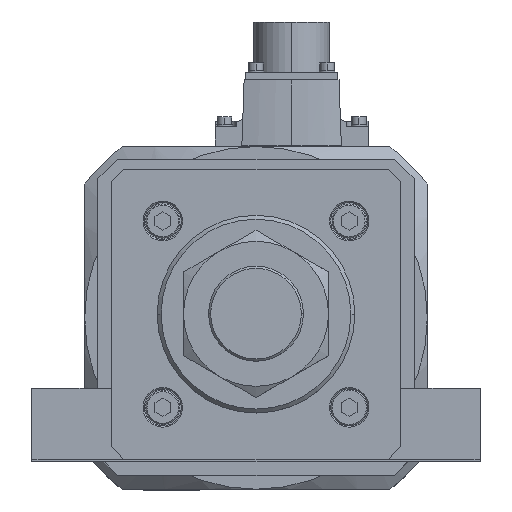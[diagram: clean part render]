
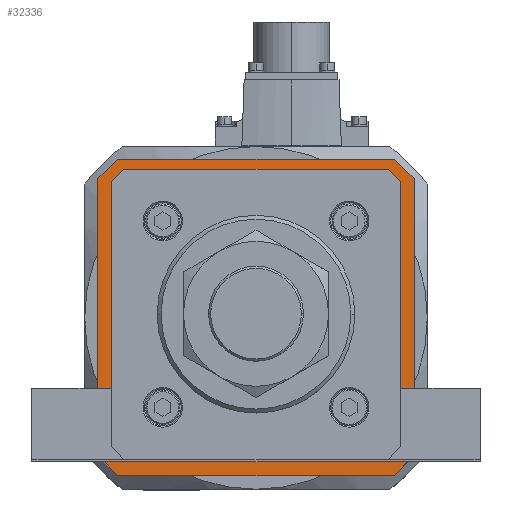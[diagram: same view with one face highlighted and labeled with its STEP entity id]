
A CAD part, top view. The second image highlights one B-rep face of the part: STEP entity #32336.
In plain terms, the highlighted planar face has unit normal (0, 0, 1).
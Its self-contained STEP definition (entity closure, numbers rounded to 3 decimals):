
#54 = CARTESIAN_POINT ( 'NONE',  ( 53.5, -49.593, -119. ) ) ;
#778 = VERTEX_POINT ( 'NONE', #18871 ) ;
#850 = ORIENTED_EDGE ( 'NONE', *, *, #4722, .T. ) ;
#1063 = EDGE_CURVE ( 'NONE', #21737, #21172, #24887, .T. ) ;
#1149 = CARTESIAN_POINT ( 'NONE',  ( 60., 52.5, -119. ) ) ;
#1278 = DIRECTION ( 'NONE',  ( 0., -1., 0. ) ) ;
#1324 = CARTESIAN_POINT ( 'NONE',  ( 0., 0., -119. ) ) ;
#1501 = ORIENTED_EDGE ( 'NONE', *, *, #22711, .T. ) ;
#2010 = EDGE_CURVE ( 'NONE', #30702, #20458, #7044, .T. ) ;
#2011 = LINE ( 'NONE', #13916, #14764 ) ;
#2049 = EDGE_CURVE ( 'NONE', #6656, #7820, #2011, .T. ) ;
#2811 = EDGE_CURVE ( 'NONE', #19448, #21846, #28827, .T. ) ;
#3164 = CARTESIAN_POINT ( 'NONE',  ( 52.5, 60., -119. ) ) ;
#3295 = VERTEX_POINT ( 'NONE', #10943 ) ;
#3515 = FACE_OUTER_BOUND ( 'NONE', #19073, .T. ) ;
#3851 = EDGE_CURVE ( 'NONE', #20471, #6656, #7826, .T. ) ;
#4645 = EDGE_LOOP ( 'NONE', ( #13287, #1501, #850, #19172, #35127, #7409, #12230, #7580 ) ) ;
#4722 = EDGE_CURVE ( 'NONE', #14181, #21737, #13696, .T. ) ;
#4867 = DIRECTION ( 'NONE',  ( 0., 0., 1. ) ) ;
#5042 = LINE ( 'NONE', #20542, #15513 ) ;
#5574 = LINE ( 'NONE', #16582, #11105 ) ;
#5791 = CARTESIAN_POINT ( 'NONE',  ( -53.5, -49.593, -119. ) ) ;
#6359 = EDGE_CURVE ( 'NONE', #7820, #11399, #36318, .T. ) ;
#6594 = CARTESIAN_POINT ( 'NONE',  ( -52.5, 60., -119. ) ) ;
#6656 = VERTEX_POINT ( 'NONE', #29508 ) ;
#6674 = VECTOR ( 'NONE', #36194, 1000. ) ;
#7007 = VECTOR ( 'NONE', #1278, 1000. ) ;
#7044 = LINE ( 'NONE', #24977, #27502 ) ;
#7186 = CARTESIAN_POINT ( 'NONE',  ( 60., 52.5, -119. ) ) ;
#7409 = ORIENTED_EDGE ( 'NONE', *, *, #2010, .T. ) ;
#7459 = CARTESIAN_POINT ( 'NONE',  ( 52.5, -60., -119. ) ) ;
#7580 = ORIENTED_EDGE ( 'NONE', *, *, #32384, .T. ) ;
#7820 = VERTEX_POINT ( 'NONE', #20636 ) ;
#7826 = LINE ( 'NONE', #7459, #23742 ) ;
#7831 = CARTESIAN_POINT ( 'NONE',  ( -49.446, 53.646, -119. ) ) ;
#8990 = EDGE_CURVE ( 'NONE', #21846, #20471, #34178, .T. ) ;
#9011 = CARTESIAN_POINT ( 'NONE',  ( 49.446, -53.646, -119. ) ) ;
#10484 = ORIENTED_EDGE ( 'NONE', *, *, #8990, .F. ) ;
#10580 = CARTESIAN_POINT ( 'NONE',  ( 60., 52.5, -119. ) ) ;
#10943 = CARTESIAN_POINT ( 'NONE',  ( 49.593, 53.5, -119. ) ) ;
#11105 = VECTOR ( 'NONE', #28182, 1000. ) ;
#11259 = CARTESIAN_POINT ( 'NONE',  ( 53.646, 49.446, -119. ) ) ;
#11389 = ORIENTED_EDGE ( 'NONE', *, *, #2049, .F. ) ;
#11399 = VERTEX_POINT ( 'NONE', #30617 ) ;
#11785 = CARTESIAN_POINT ( 'NONE',  ( 53.5, -49.8, -119. ) ) ;
#12230 = ORIENTED_EDGE ( 'NONE', *, *, #17695, .T. ) ;
#12240 = ORIENTED_EDGE ( 'NONE', *, *, #6359, .F. ) ;
#12461 = DIRECTION ( 'NONE',  ( 0.707, 0.707, 0. ) ) ;
#12627 = CARTESIAN_POINT ( 'NONE',  ( -49.593, 53.5, -119. ) ) ;
#13287 = ORIENTED_EDGE ( 'NONE', *, *, #27157, .T. ) ;
#13696 = LINE ( 'NONE', #11785, #30061 ) ;
#13787 = CARTESIAN_POINT ( 'NONE',  ( -60., 52.5, -119. ) ) ;
#13915 = EDGE_CURVE ( 'NONE', #31546, #32654, #28208, .T. ) ;
#13916 = CARTESIAN_POINT ( 'NONE',  ( -52.5, -60., -119. ) ) ;
#13970 = ORIENTED_EDGE ( 'NONE', *, *, #3851, .F. ) ;
#14005 = VECTOR ( 'NONE', #22577, 1000. ) ;
#14181 = VERTEX_POINT ( 'NONE', #34300 ) ;
#14367 = CARTESIAN_POINT ( 'NONE',  ( -52.5, 60., -119. ) ) ;
#14575 = CARTESIAN_POINT ( 'NONE',  ( 52.5, -60., -119. ) ) ;
#14764 = VECTOR ( 'NONE', #16798, 1000. ) ;
#14798 = DIRECTION ( 'NONE',  ( 0., -1., 0. ) ) ;
#14950 = LINE ( 'NONE', #6594, #15858 ) ;
#15404 = DIRECTION ( 'NONE',  ( -0.707, 0.707, 0. ) ) ;
#15513 = VECTOR ( 'NONE', #34671, 1000. ) ;
#15829 = PLANE ( 'NONE',  #21285 ) ;
#15858 = VECTOR ( 'NONE', #12461, 1000. ) ;
#16187 = CARTESIAN_POINT ( 'NONE',  ( -49.593, -53.5, -119. ) ) ;
#16582 = CARTESIAN_POINT ( 'NONE',  ( -49.8, -53.5, -119. ) ) ;
#16798 = DIRECTION ( 'NONE',  ( -0.707, 0.707, 0. ) ) ;
#17695 = EDGE_CURVE ( 'NONE', #20458, #778, #23838, .T. ) ;
#18141 = DIRECTION ( 'NONE',  ( 0., 1., 0. ) ) ;
#18381 = EDGE_CURVE ( 'NONE', #21172, #30702, #5574, .T. ) ;
#18484 = CARTESIAN_POINT ( 'NONE',  ( 60., -52.5, -119. ) ) ;
#18871 = CARTESIAN_POINT ( 'NONE',  ( -53.5, 49.593, -119. ) ) ;
#19073 = EDGE_LOOP ( 'NONE', ( #33931, #33602, #12240, #11389, #13970, #10484, #19946, #25214 ) ) ;
#19128 = DIRECTION ( 'NONE',  ( -1., 0., 0. ) ) ;
#19172 = ORIENTED_EDGE ( 'NONE', *, *, #1063, .T. ) ;
#19448 = VERTEX_POINT ( 'NONE', #10580 ) ;
#19875 = DIRECTION ( 'NONE',  ( 0.707, 0.707, 0. ) ) ;
#19946 = ORIENTED_EDGE ( 'NONE', *, *, #2811, .F. ) ;
#20458 = VERTEX_POINT ( 'NONE', #5791 ) ;
#20471 = VERTEX_POINT ( 'NONE', #14575 ) ;
#20542 = CARTESIAN_POINT ( 'NONE',  ( 49.8, 53.5, -119. ) ) ;
#20636 = CARTESIAN_POINT ( 'NONE',  ( -60., -52.5, -119. ) ) ;
#21172 = VERTEX_POINT ( 'NONE', #32299 ) ;
#21285 = AXIS2_PLACEMENT_3D ( 'NONE', #1324, #4867, #31179 ) ;
#21487 = DIRECTION ( 'NONE',  ( 1., 0., 0. ) ) ;
#21737 = VERTEX_POINT ( 'NONE', #54 ) ;
#21846 = VERTEX_POINT ( 'NONE', #18484 ) ;
#22027 = EDGE_CURVE ( 'NONE', #32654, #19448, #24404, .T. ) ;
#22150 = VECTOR ( 'NONE', #29345, 1000. ) ;
#22577 = DIRECTION ( 'NONE',  ( 0., 1., 0. ) ) ;
#22711 = EDGE_CURVE ( 'NONE', #3295, #14181, #23456, .T. ) ;
#22975 = VERTEX_POINT ( 'NONE', #12627 ) ;
#23230 = VECTOR ( 'NONE', #21487, 1000. ) ;
#23456 = LINE ( 'NONE', #11259, #37118 ) ;
#23742 = VECTOR ( 'NONE', #19128, 1000. ) ;
#23838 = LINE ( 'NONE', #29610, #32935 ) ;
#24404 = LINE ( 'NONE', #7186, #6674 ) ;
#24887 = LINE ( 'NONE', #9011, #22150 ) ;
#24977 = CARTESIAN_POINT ( 'NONE',  ( -53.646, -49.446, -119. ) ) ;
#25214 = ORIENTED_EDGE ( 'NONE', *, *, #22027, .F. ) ;
#26619 = CARTESIAN_POINT ( 'NONE',  ( 60., -52.5, -119. ) ) ;
#27157 = EDGE_CURVE ( 'NONE', #22975, #3295, #5042, .T. ) ;
#27502 = VECTOR ( 'NONE', #15404, 1000. ) ;
#28182 = DIRECTION ( 'NONE',  ( -1., 0., 0. ) ) ;
#28208 = LINE ( 'NONE', #36140, #23230 ) ;
#28574 = VECTOR ( 'NONE', #19875, 1000. ) ;
#28827 = LINE ( 'NONE', #1149, #7007 ) ;
#29345 = DIRECTION ( 'NONE',  ( -0.707, -0.707, 0. ) ) ;
#29473 = LINE ( 'NONE', #7831, #28574 ) ;
#29508 = CARTESIAN_POINT ( 'NONE',  ( -52.5, -60., -119. ) ) ;
#29610 = CARTESIAN_POINT ( 'NONE',  ( -53.5, 49.8, -119. ) ) ;
#29925 = DIRECTION ( 'NONE',  ( -0.707, -0.707, 0. ) ) ;
#30061 = VECTOR ( 'NONE', #14798, 1000. ) ;
#30617 = CARTESIAN_POINT ( 'NONE',  ( -60., 52.5, -119. ) ) ;
#30702 = VERTEX_POINT ( 'NONE', #16187 ) ;
#31179 = DIRECTION ( 'NONE',  ( 1., 0., 0. ) ) ;
#31397 = DIRECTION ( 'NONE',  ( 0.707, -0.707, 0. ) ) ;
#31546 = VERTEX_POINT ( 'NONE', #14367 ) ;
#31732 = EDGE_CURVE ( 'NONE', #11399, #31546, #14950, .T. ) ;
#32299 = CARTESIAN_POINT ( 'NONE',  ( 49.593, -53.5, -119. ) ) ;
#32336 = ADVANCED_FACE ( 'NONE', ( #35888, #3515 ), #15829, .T. ) ;
#32384 = EDGE_CURVE ( 'NONE', #778, #22975, #29473, .T. ) ;
#32654 = VERTEX_POINT ( 'NONE', #3164 ) ;
#32935 = VECTOR ( 'NONE', #18141, 1000. ) ;
#33602 = ORIENTED_EDGE ( 'NONE', *, *, #31732, .F. ) ;
#33931 = ORIENTED_EDGE ( 'NONE', *, *, #13915, .F. ) ;
#34178 = LINE ( 'NONE', #26619, #36052 ) ;
#34300 = CARTESIAN_POINT ( 'NONE',  ( 53.5, 49.593, -119. ) ) ;
#34671 = DIRECTION ( 'NONE',  ( 1., 0., 0. ) ) ;
#35127 = ORIENTED_EDGE ( 'NONE', *, *, #18381, .T. ) ;
#35888 = FACE_BOUND ( 'NONE', #4645, .T. ) ;
#36052 = VECTOR ( 'NONE', #29925, 1000. ) ;
#36140 = CARTESIAN_POINT ( 'NONE',  ( 52.5, 60., -119. ) ) ;
#36194 = DIRECTION ( 'NONE',  ( 0.707, -0.707, 0. ) ) ;
#36318 = LINE ( 'NONE', #13787, #14005 ) ;
#37118 = VECTOR ( 'NONE', #31397, 1000. ) ;
